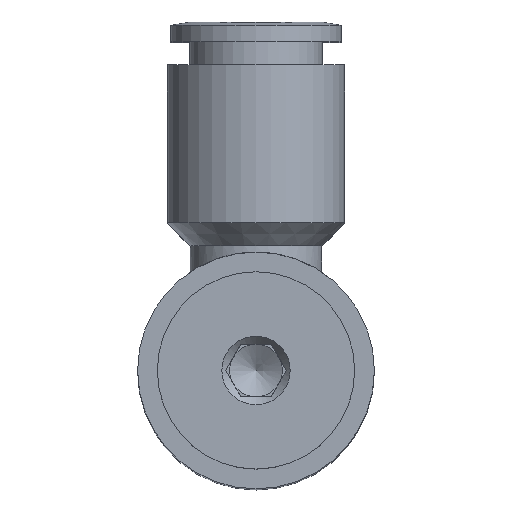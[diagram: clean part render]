
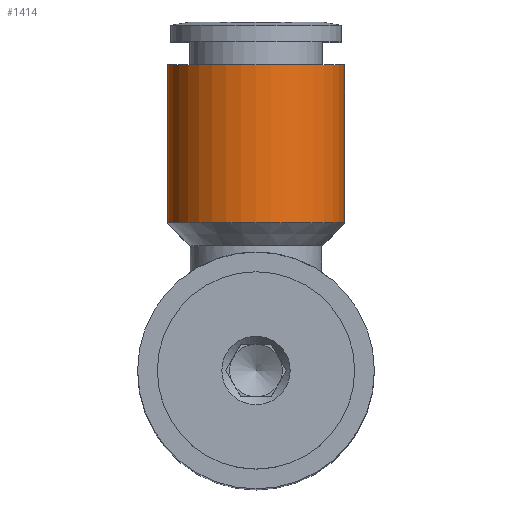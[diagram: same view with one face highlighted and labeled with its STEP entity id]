
A CAD part, top view. The second image highlights one B-rep face of the part: STEP entity #1414.
In plain terms, the highlighted cylindrical face has radius 6.75 mm (diameter 13.5 mm), a full revolution.
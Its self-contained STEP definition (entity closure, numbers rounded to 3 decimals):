
#1380=CARTESIAN_POINT('',(-6.75,11.25,34.0));
#1381=VERTEX_POINT('',#1380);
#1382=CARTESIAN_POINT('',(0.0,11.25,34.0));
#1383=DIRECTION('',(0.0,1.0,0.0));
#1384=DIRECTION('',(-1.0,0.0,0.0));
#1385=AXIS2_PLACEMENT_3D('',#1382,#1383,#1384);
#1386=CIRCLE('',#1385,6.75);
#1387=EDGE_CURVE('',#1381,#1381,#1386,.T.);
#1395=CARTESIAN_POINT('',(0.0,17.25,34.0));
#1396=DIRECTION('',(0.0,1.0,0.0));
#1397=DIRECTION('',(-1.0,0.0,0.0));
#1398=AXIS2_PLACEMENT_3D('',#1395,#1396,#1397);
#1399=CYLINDRICAL_SURFACE('',#1398,6.75);
#1400=CARTESIAN_POINT('',(-6.75,23.25,34.0));
#1401=VERTEX_POINT('',#1400);
#1402=CARTESIAN_POINT('',(0.0,23.25,34.0));
#1403=DIRECTION('',(0.0,1.0,0.0));
#1404=DIRECTION('',(-1.0,0.0,0.0));
#1405=AXIS2_PLACEMENT_3D('',#1402,#1403,#1404);
#1406=CIRCLE('',#1405,6.75);
#1407=EDGE_CURVE('',#1401,#1401,#1406,.T.);
#1408=ORIENTED_EDGE('',*,*,#1407,.F.);
#1409=EDGE_LOOP('',(#1408));
#1410=FACE_OUTER_BOUND('',#1409,.T.);
#1411=ORIENTED_EDGE('',*,*,#1387,.T.);
#1412=EDGE_LOOP('',(#1411));
#1413=FACE_BOUND('',#1412,.T.);
#1414=ADVANCED_FACE('',(#1410,#1413),#1399,.T.);
